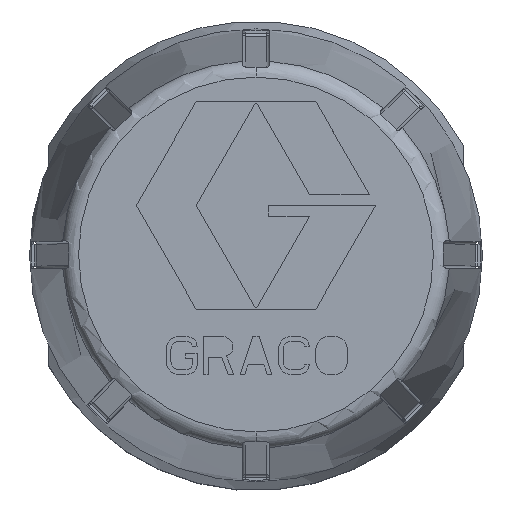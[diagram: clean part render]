
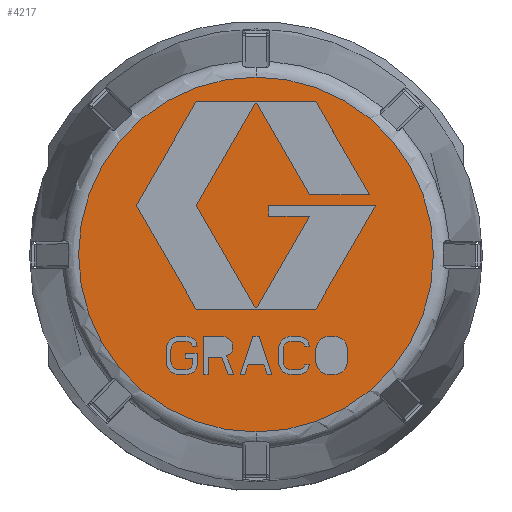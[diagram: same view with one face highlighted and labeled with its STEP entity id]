
A CAD part, top view. The second image highlights one B-rep face of the part: STEP entity #4217.
In plain terms, the highlighted planar face has unit normal (0, 0, 1).
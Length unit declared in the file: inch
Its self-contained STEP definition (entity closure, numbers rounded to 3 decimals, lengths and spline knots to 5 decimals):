
#442=CARTESIAN_POINT('',(0.,0.,0.));
#443=DIRECTION('',(0.,0.,1.));
#444=DIRECTION('',(0.,1.,0.));
#445=AXIS2_PLACEMENT_3D('',#442,#443,#444);
#447=CARTESIAN_POINT('',(0.,0.,0.));
#448=DIRECTION('',(0.,0.,-1.));
#449=DIRECTION('',(0.,1.,0.));
#450=AXIS2_PLACEMENT_3D('',#447,#448,#449);
#3081=CARTESIAN_POINT('',(0.,1.01616,0.));
#3082=CARTESIAN_POINT('',(0.,-1.01616,0.));
#3083=VERTEX_POINT('',#3081);
#3084=VERTEX_POINT('',#3082);
#4206=CARTESIAN_POINT('',(0.,0.,0.));
#4207=DIRECTION('',(0.,0.,-1.));
#4208=DIRECTION('',(0.,-1.,0.));
#4209=AXIS2_PLACEMENT_3D('',#4206,#4207,#4208);
#4210=PLANE('',#4209);
#4212=ORIENTED_EDGE('',*,*,#4211,.F.);
#4214=ORIENTED_EDGE('',*,*,#4213,.T.);
#4215=EDGE_LOOP('',(#4212,#4214));
#4216=FACE_OUTER_BOUND('',#4215,.F.);
#4217=ADVANCED_FACE('',(#4216),#4210,.F.);
#446=CIRCLE('',#445,1.01616);
#451=CIRCLE('',#450,1.01616);
#4211=EDGE_CURVE('',#3083,#3084,#446,.T.);
#4213=EDGE_CURVE('',#3083,#3084,#451,.T.);
